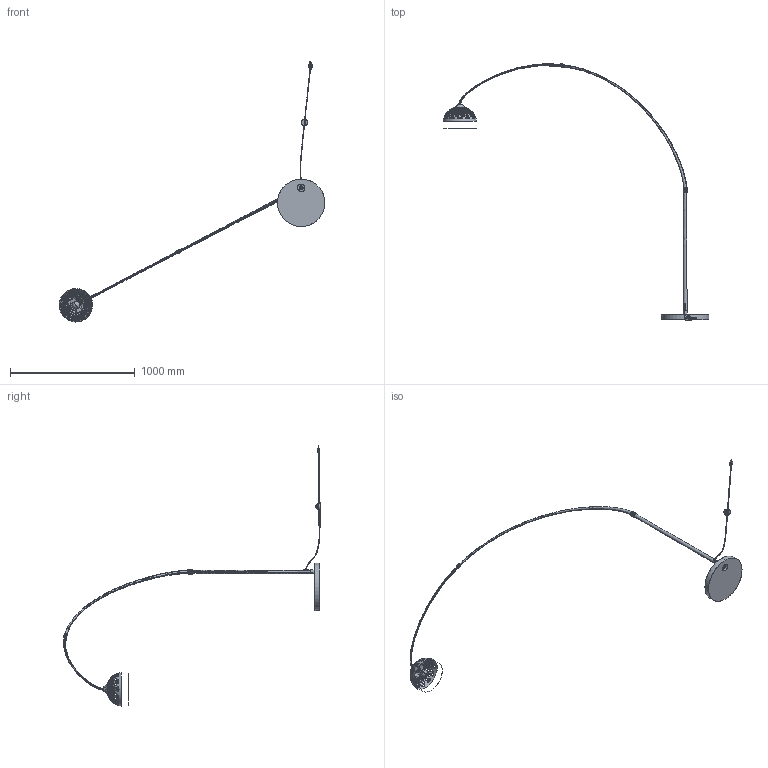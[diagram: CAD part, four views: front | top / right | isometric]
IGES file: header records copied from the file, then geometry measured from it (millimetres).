
Start section: SolidWorks IGES file using analytic representation for surfaces
Global section: file name: F:\GABRYSIA\MODELE 3D\COSMO_S_3382_4917_WWW\COSMO_S_3382_4917.IGS; native system: SolidWorks 2017; preprocessor: SolidWorks 2017; author: Togambi; date: 200617.081059; units: millimetre
Bounding box: 2130.37 x 2056.64 x 2084.19 mm (x, y, z)
Surface area: 918926.1 mm2 (no closed solid volume)
Topology: 0 solids, 0 shells, 935 faces, 19798 edges, 19774 vertices
Faces by surface type: revolution 635, bspline 300
